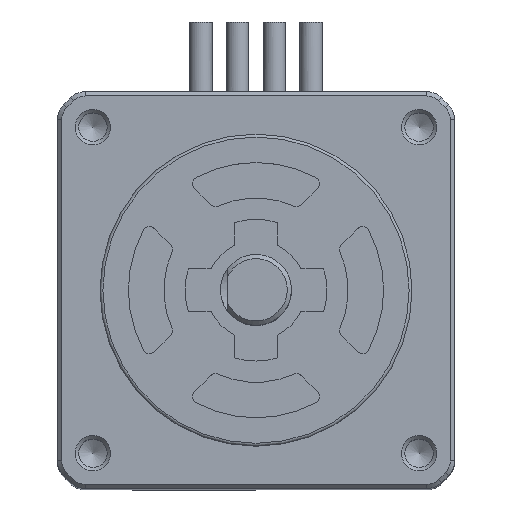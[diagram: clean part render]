
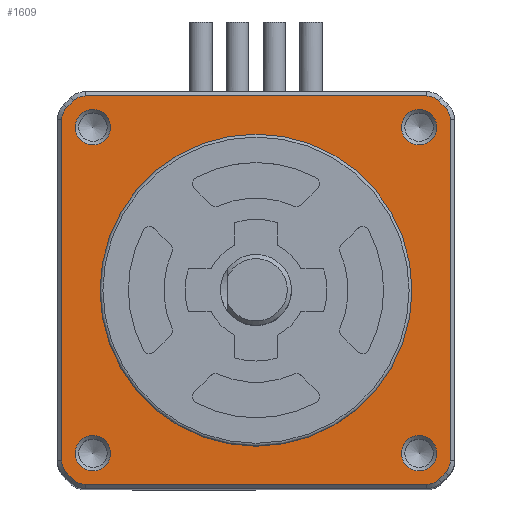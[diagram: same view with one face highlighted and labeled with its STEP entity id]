
A CAD part, top view. The second image highlights one B-rep face of the part: STEP entity #1609.
In plain terms, the highlighted planar face has unit normal (0, 0, 1).
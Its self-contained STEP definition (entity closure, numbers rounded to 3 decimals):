
#613=CARTESIAN_POINT('',(-12.032,13.7,3.5));
#614=VERTEX_POINT('',#613);
#621=CARTESIAN_POINT('',(12.032,13.7,3.5));
#622=VERTEX_POINT('',#621);
#623=CARTESIAN_POINT('',(-12.032,13.7,3.5));
#624=DIRECTION('',(1.0,0.0,0.0));
#625=VECTOR('',#624,24.064);
#626=LINE('',#623,#625);
#627=EDGE_CURVE('',#614,#622,#626,.T.);
#651=CARTESIAN_POINT('',(12.864,13.365,3.5));
#652=VERTEX_POINT('',#651);
#669=CARTESIAN_POINT('',(12.032,12.5,3.5));
#670=DIRECTION('',(0.0,0.0,-1.));
#671=DIRECTION('',(0.693,0.72,0.0));
#672=AXIS2_PLACEMENT_3D('',#669,#670,#671);
#673=CIRCLE('',#672,1.2);
#674=EDGE_CURVE('',#622,#652,#673,.T.);
#684=CARTESIAN_POINT('',(13.365,12.864,3.5));
#685=VERTEX_POINT('',#684);
#702=CARTESIAN_POINT('',(0.0,0.0,3.5));
#703=DIRECTION('',(0.0,0.0,-1.));
#704=DIRECTION('',(0.72,0.693,0.0));
#705=AXIS2_PLACEMENT_3D('',#702,#703,#704);
#706=CIRCLE('',#705,18.55);
#707=EDGE_CURVE('',#652,#685,#706,.T.);
#717=CARTESIAN_POINT('',(13.7,12.032,3.5));
#718=VERTEX_POINT('',#717);
#735=CARTESIAN_POINT('',(12.5,12.032,3.5));
#736=DIRECTION('',(0.0,0.0,-1.0));
#737=DIRECTION('',(1.0,0.0,0.0));
#738=AXIS2_PLACEMENT_3D('',#735,#736,#737);
#739=CIRCLE('',#738,1.2);
#740=EDGE_CURVE('',#685,#718,#739,.T.);
#750=CARTESIAN_POINT('',(13.7,-12.032,3.5));
#751=VERTEX_POINT('',#750);
#767=CARTESIAN_POINT('',(13.7,12.032,3.5));
#768=DIRECTION('',(0.0,-1.0,0.0));
#769=VECTOR('',#768,24.064);
#770=LINE('',#767,#769);
#771=EDGE_CURVE('',#718,#751,#770,.T.);
#781=CARTESIAN_POINT('',(13.365,-12.864,3.5));
#782=VERTEX_POINT('',#781);
#799=CARTESIAN_POINT('',(12.5,-12.032,3.5));
#800=DIRECTION('',(0.0,0.0,-1.0));
#801=DIRECTION('',(0.72,-0.693,0.0));
#802=AXIS2_PLACEMENT_3D('',#799,#800,#801);
#803=CIRCLE('',#802,1.2);
#804=EDGE_CURVE('',#751,#782,#803,.T.);
#814=CARTESIAN_POINT('',(12.864,-13.365,3.5));
#815=VERTEX_POINT('',#814);
#832=CARTESIAN_POINT('',(0.0,0.0,3.5));
#833=DIRECTION('',(0.0,0.0,-1.));
#834=DIRECTION('',(0.693,-0.72,0.0));
#835=AXIS2_PLACEMENT_3D('',#832,#833,#834);
#836=CIRCLE('',#835,18.55);
#837=EDGE_CURVE('',#782,#815,#836,.T.);
#847=CARTESIAN_POINT('',(12.032,-13.7,3.5));
#848=VERTEX_POINT('',#847);
#865=CARTESIAN_POINT('',(12.032,-12.5,3.5));
#866=DIRECTION('',(0.0,0.0,-1.0));
#867=DIRECTION('',(0.0,-1.0,0.0));
#868=AXIS2_PLACEMENT_3D('',#865,#866,#867);
#869=CIRCLE('',#868,1.2);
#870=EDGE_CURVE('',#815,#848,#869,.T.);
#880=CARTESIAN_POINT('',(-12.032,-13.7,3.5));
#881=VERTEX_POINT('',#880);
#897=CARTESIAN_POINT('',(12.032,-13.7,3.5));
#898=DIRECTION('',(-1.0,0.0,0.0));
#899=VECTOR('',#898,24.064);
#900=LINE('',#897,#899);
#901=EDGE_CURVE('',#848,#881,#900,.T.);
#911=CARTESIAN_POINT('',(-12.864,-13.365,3.5));
#912=VERTEX_POINT('',#911);
#929=CARTESIAN_POINT('',(-12.032,-12.5,3.5));
#930=DIRECTION('',(0.0,0.0,-1.));
#931=DIRECTION('',(-0.693,-0.72,0.0));
#932=AXIS2_PLACEMENT_3D('',#929,#930,#931);
#933=CIRCLE('',#932,1.2);
#934=EDGE_CURVE('',#881,#912,#933,.T.);
#944=CARTESIAN_POINT('',(-13.365,-12.864,3.5));
#945=VERTEX_POINT('',#944);
#962=CARTESIAN_POINT('',(0.0,0.0,3.5));
#963=DIRECTION('',(0.0,0.0,-1.));
#964=DIRECTION('',(-0.72,-0.693,0.0));
#965=AXIS2_PLACEMENT_3D('',#962,#963,#964);
#966=CIRCLE('',#965,18.55);
#967=EDGE_CURVE('',#912,#945,#966,.T.);
#977=CARTESIAN_POINT('',(-13.7,-12.032,3.5));
#978=VERTEX_POINT('',#977);
#995=CARTESIAN_POINT('',(-12.5,-12.032,3.5));
#996=DIRECTION('',(0.0,0.0,-1.0));
#997=DIRECTION('',(-1.0,0.0,0.0));
#998=AXIS2_PLACEMENT_3D('',#995,#996,#997);
#999=CIRCLE('',#998,1.2);
#1000=EDGE_CURVE('',#945,#978,#999,.T.);
#1010=CARTESIAN_POINT('',(-13.7,12.032,3.5));
#1011=VERTEX_POINT('',#1010);
#1027=CARTESIAN_POINT('',(-13.7,-12.032,3.5));
#1028=DIRECTION('',(0.0,1.0,0.0));
#1029=VECTOR('',#1028,24.064);
#1030=LINE('',#1027,#1029);
#1031=EDGE_CURVE('',#978,#1011,#1030,.T.);
#1041=CARTESIAN_POINT('',(-13.365,12.864,3.5));
#1042=VERTEX_POINT('',#1041);
#1059=CARTESIAN_POINT('',(-12.5,12.032,3.5));
#1060=DIRECTION('',(0.0,0.0,-1.));
#1061=DIRECTION('',(-0.72,0.693,0.0));
#1062=AXIS2_PLACEMENT_3D('',#1059,#1060,#1061);
#1063=CIRCLE('',#1062,1.2);
#1064=EDGE_CURVE('',#1011,#1042,#1063,.T.);
#1074=CARTESIAN_POINT('',(-12.864,13.365,3.5));
#1075=VERTEX_POINT('',#1074);
#1092=CARTESIAN_POINT('',(0.0,0.0,3.5));
#1093=DIRECTION('',(0.0,0.0,-1.0));
#1094=DIRECTION('',(-0.693,0.72,0.0));
#1095=AXIS2_PLACEMENT_3D('',#1092,#1093,#1094);
#1096=CIRCLE('',#1095,18.55);
#1097=EDGE_CURVE('',#1042,#1075,#1096,.T.);
#1116=CARTESIAN_POINT('',(-12.032,12.5,3.5));
#1117=DIRECTION('',(0.0,0.0,-1.0));
#1118=DIRECTION('',(0.0,1.0,0.0));
#1119=AXIS2_PLACEMENT_3D('',#1116,#1117,#1118);
#1120=CIRCLE('',#1119,1.2);
#1121=EDGE_CURVE('',#1075,#614,#1120,.T.);
#1531=CARTESIAN_POINT('',(0.,0.,3.5));
#1532=DIRECTION('',(0.0,0.0,1.0));
#1533=DIRECTION('',(1.0,0.0,0.0));
#1534=AXIS2_PLACEMENT_3D('',#1531,#1532,#1533);
#1535=PLANE('',#1534);
#1536=ORIENTED_EDGE('',*,*,#627,.F.);
#1537=ORIENTED_EDGE('',*,*,#1121,.F.);
#1538=ORIENTED_EDGE('',*,*,#1097,.F.);
#1539=ORIENTED_EDGE('',*,*,#1064,.F.);
#1540=ORIENTED_EDGE('',*,*,#1031,.F.);
#1541=ORIENTED_EDGE('',*,*,#1000,.F.);
#1542=ORIENTED_EDGE('',*,*,#967,.F.);
#1543=ORIENTED_EDGE('',*,*,#934,.F.);
#1544=ORIENTED_EDGE('',*,*,#901,.F.);
#1545=ORIENTED_EDGE('',*,*,#870,.F.);
#1546=ORIENTED_EDGE('',*,*,#837,.F.);
#1547=ORIENTED_EDGE('',*,*,#804,.F.);
#1548=ORIENTED_EDGE('',*,*,#771,.F.);
#1549=ORIENTED_EDGE('',*,*,#740,.F.);
#1550=ORIENTED_EDGE('',*,*,#707,.F.);
#1551=ORIENTED_EDGE('',*,*,#674,.F.);
#1552=EDGE_LOOP('',(#1536,#1537,#1538,#1539,#1540,#1541,#1542,#1543,#1544,#1545,#1546,#1547,#1548,#1549,#1550,#1551));
#1553=FACE_OUTER_BOUND('',#1552,.T.);
#1554=CARTESIAN_POINT('',(11.0,0.,3.5));
#1555=VERTEX_POINT('',#1554);
#1556=CARTESIAN_POINT('',(0.0,0.0,3.5));
#1557=DIRECTION('',(0.0,0.0,-1.0));
#1558=DIRECTION('',(-1.0,0.0,0.0));
#1559=AXIS2_PLACEMENT_3D('',#1556,#1557,#1558);
#1560=CIRCLE('',#1559,11.0);
#1561=EDGE_CURVE('',#1555,#1555,#1560,.T.);
#1562=ORIENTED_EDGE('',*,*,#1561,.T.);
#1563=EDGE_LOOP('',(#1562));
#1564=FACE_BOUND('',#1563,.T.);
#1565=CARTESIAN_POINT('',(-10.25,11.5,3.5));
#1566=VERTEX_POINT('',#1565);
#1567=CARTESIAN_POINT('',(-11.5,11.5,3.5));
#1568=DIRECTION('',(0.0,0.0,-1.0));
#1569=DIRECTION('',(1.0,0.0,0.0));
#1570=AXIS2_PLACEMENT_3D('',#1567,#1568,#1569);
#1571=CIRCLE('',#1570,1.25);
#1572=EDGE_CURVE('',#1566,#1566,#1571,.T.);
#1573=ORIENTED_EDGE('',*,*,#1572,.T.);
#1574=EDGE_LOOP('',(#1573));
#1575=FACE_BOUND('',#1574,.T.);
#1576=CARTESIAN_POINT('',(12.75,11.5,3.5));
#1577=VERTEX_POINT('',#1576);
#1578=CARTESIAN_POINT('',(11.5,11.5,3.5));
#1579=DIRECTION('',(0.0,0.0,-1.0));
#1580=DIRECTION('',(1.0,0.0,0.0));
#1581=AXIS2_PLACEMENT_3D('',#1578,#1579,#1580);
#1582=CIRCLE('',#1581,1.25);
#1583=EDGE_CURVE('',#1577,#1577,#1582,.T.);
#1584=ORIENTED_EDGE('',*,*,#1583,.T.);
#1585=EDGE_LOOP('',(#1584));
#1586=FACE_BOUND('',#1585,.T.);
#1587=CARTESIAN_POINT('',(12.75,-11.5,3.5));
#1588=VERTEX_POINT('',#1587);
#1589=CARTESIAN_POINT('',(11.5,-11.5,3.5));
#1590=DIRECTION('',(0.0,0.0,-1.0));
#1591=DIRECTION('',(1.0,0.0,0.0));
#1592=AXIS2_PLACEMENT_3D('',#1589,#1590,#1591);
#1593=CIRCLE('',#1592,1.25);
#1594=EDGE_CURVE('',#1588,#1588,#1593,.T.);
#1595=ORIENTED_EDGE('',*,*,#1594,.T.);
#1596=EDGE_LOOP('',(#1595));
#1597=FACE_BOUND('',#1596,.T.);
#1598=CARTESIAN_POINT('',(-10.25,-11.5,3.5));
#1599=VERTEX_POINT('',#1598);
#1600=CARTESIAN_POINT('',(-11.5,-11.5,3.5));
#1601=DIRECTION('',(0.0,0.0,-1.0));
#1602=DIRECTION('',(1.0,0.0,0.0));
#1603=AXIS2_PLACEMENT_3D('',#1600,#1601,#1602);
#1604=CIRCLE('',#1603,1.25);
#1605=EDGE_CURVE('',#1599,#1599,#1604,.T.);
#1606=ORIENTED_EDGE('',*,*,#1605,.T.);
#1607=EDGE_LOOP('',(#1606));
#1608=FACE_BOUND('',#1607,.T.);
#1609=ADVANCED_FACE('',(#1553,#1564,#1575,#1586,#1597,#1608),#1535,.T.);
